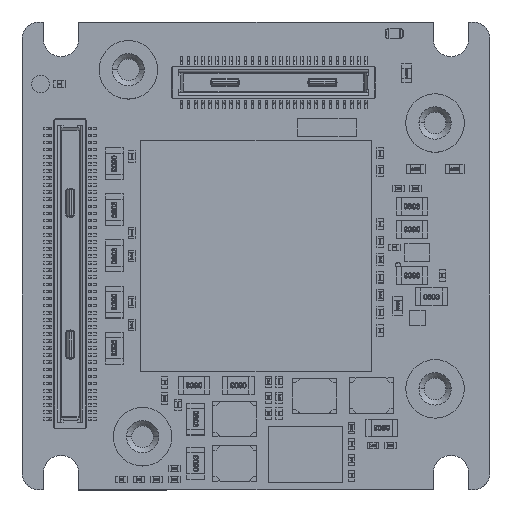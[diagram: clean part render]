
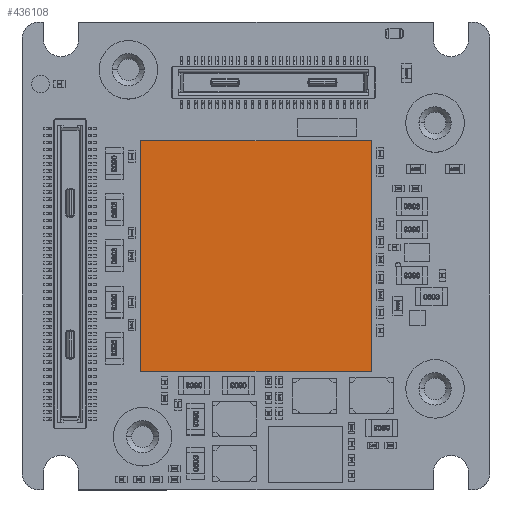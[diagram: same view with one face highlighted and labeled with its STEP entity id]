
A CAD part, top view. The second image highlights one B-rep face of the part: STEP entity #436108.
In plain terms, the highlighted planar face has unit normal (0, 0, 1).
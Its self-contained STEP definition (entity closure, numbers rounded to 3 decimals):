
#1209 = CARTESIAN_POINT ( 'NONE',  ( 0., 0., 6.162 ) ) ;
#3968 = CARTESIAN_POINT ( 'NONE',  ( 6.5, -6.5, 6.162 ) ) ;
#6704 = FACE_OUTER_BOUND ( 'NONE', #356321, .T. ) ;
#10524 = VECTOR ( 'NONE', #312413, 1000. ) ;
#14305 = ORIENTED_EDGE ( 'NONE', *, *, #304687, .F. ) ;
#15667 = ORIENTED_EDGE ( 'NONE', *, *, #540635, .F. ) ;
#83017 = EDGE_CURVE ( 'NONE', #433501, #124975, #186714, .T. ) ;
#93714 = VECTOR ( 'NONE', #472188, 1000. ) ;
#108920 = DIRECTION ( 'NONE',  ( 1., 0., 0. ) ) ;
#124975 = VERTEX_POINT ( 'NONE', #292642 ) ;
#129455 = VECTOR ( 'NONE', #389491, 1000. ) ;
#131422 = LINE ( 'NONE', #307296, #93714 ) ;
#133051 = CARTESIAN_POINT ( 'NONE',  ( -6.5, -6.5, 6.162 ) ) ;
#152968 = AXIS2_PLACEMENT_3D ( 'NONE', #1209, #431470, #434241 ) ;
#161302 = VERTEX_POINT ( 'NONE', #384779 ) ;
#186714 = LINE ( 'NONE', #441011, #10524 ) ;
#234270 = ORIENTED_EDGE ( 'NONE', *, *, #83017, .F. ) ;
#258198 = LINE ( 'NONE', #3968, #129455 ) ;
#292642 = CARTESIAN_POINT ( 'NONE',  ( 6.5, -6.5, 6.162 ) ) ;
#304687 = EDGE_CURVE ( 'NONE', #161302, #433501, #491596, .T. ) ;
#307296 = CARTESIAN_POINT ( 'NONE',  ( -6.5, -6.5, 6.162 ) ) ;
#312413 = DIRECTION ( 'NONE',  ( 0., -1., 0. ) ) ;
#326734 = CARTESIAN_POINT ( 'NONE',  ( -6.5, 6.5, 6.162 ) ) ;
#356321 = EDGE_LOOP ( 'NONE', ( #15667, #234270, #14305, #540450 ) ) ;
#374553 = VECTOR ( 'NONE', #108920, 1000. ) ;
#384779 = CARTESIAN_POINT ( 'NONE',  ( -6.5, 6.5, 6.162 ) ) ;
#389491 = DIRECTION ( 'NONE',  ( -1., 0., 0. ) ) ;
#408084 = EDGE_CURVE ( 'NONE', #543612, #161302, #131422, .T. ) ;
#430917 = CARTESIAN_POINT ( 'NONE',  ( 6.5, 6.5, 6.162 ) ) ;
#431470 = DIRECTION ( 'NONE',  ( 0., 0., -1. ) ) ;
#433501 = VERTEX_POINT ( 'NONE', #430917 ) ;
#434241 = DIRECTION ( 'NONE',  ( 0., -1., 0. ) ) ;
#436108 = ADVANCED_FACE ( 'NONE', ( #6704 ), #439706, .F. ) ;
#439706 = PLANE ( 'NONE',  #152968 ) ;
#441011 = CARTESIAN_POINT ( 'NONE',  ( 6.5, 6.5, 6.162 ) ) ;
#472188 = DIRECTION ( 'NONE',  ( 0., 1., 0. ) ) ;
#491596 = LINE ( 'NONE', #326734, #374553 ) ;
#540450 = ORIENTED_EDGE ( 'NONE', *, *, #408084, .F. ) ;
#540635 = EDGE_CURVE ( 'NONE', #124975, #543612, #258198, .T. ) ;
#543612 = VERTEX_POINT ( 'NONE', #133051 ) ;
